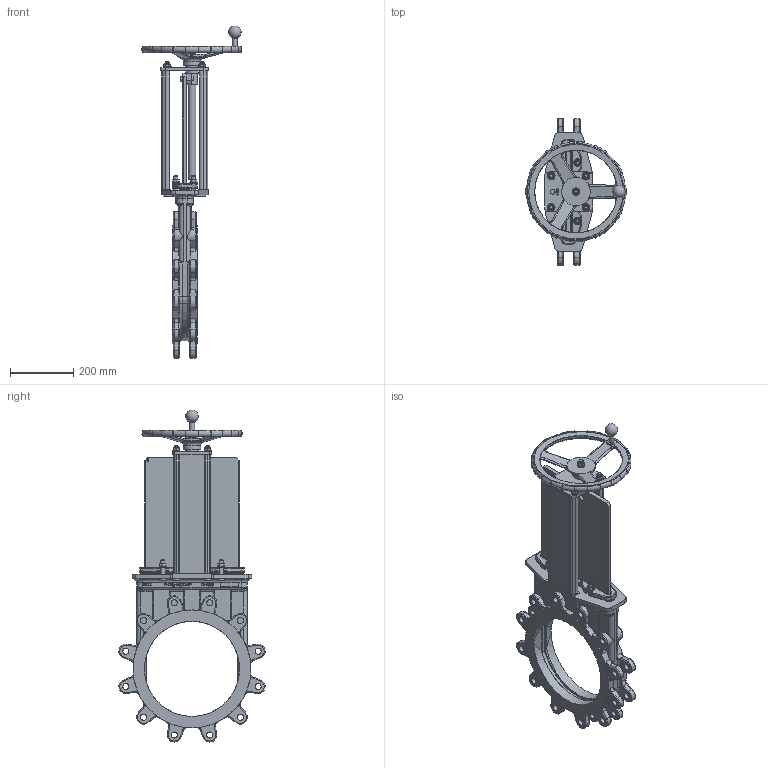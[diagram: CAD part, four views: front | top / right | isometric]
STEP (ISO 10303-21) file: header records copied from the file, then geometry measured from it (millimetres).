
FILE_DESCRIPTION(/* description */ (''),/* implementation_level */ '2;1');
FILE_NAME(/* name */ 'F:\3D Sammanställningar\WB\DN300\WB14E-DN300-ANSI150-HW.stp',/* time_stamp */ '2021-06-28T14:42:29+02:00',/* author */ ('MATZET'),/* organization */ (''),/* preprocessor_version */ 'ST-DEVELOPER v18',/* originating_system */ 'Autodesk Inventor 2020',/* authorisation */ '');
FILE_SCHEMA (('AUTOMOTIVE_DESIGN { 1 0 10303 214 3 1 1 }'));
Length unit declared in the file: millimetre
Products named in the file (1): WB14E-DN300-PN10-HW_Shrinkwrap_2
Bounding box: 316.54 x 461.28 x 1047.49 mm (x, y, z)
Volume: 9144719.1 mm3; surface area: 1672033.4 mm2
Topology: 1 solids, 1 shells, 2310 faces, 6117 edges, 3866 vertices
Faces by surface type: plane 951, cylinder 564, bspline 440, torus 263, cone 59, sphere 33
Full cylindrical faces by diameter (mm): 7 x1, 8.376 x1, 10.106 x4, 12 x23, 13 x8, 15 x1, 15.5 x1, 16 x1, 16.63 x2, 19.177 x24, 20 x2, 24 x10, 40 x2, 55 x1, 298 x1, 372 x2
Entity records: 79298 total; most frequent: CARTESIAN_POINT 23546, ORIENTED_EDGE 12206, DIRECTION 10636, EDGE_CURVE 6103, VERTEX_POINT 3866, AXIS2_PLACEMENT_3D 3804, LINE 3028, VECTOR 3028
